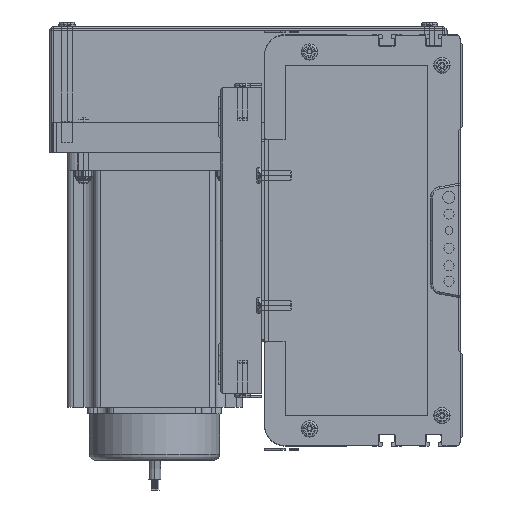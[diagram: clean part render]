
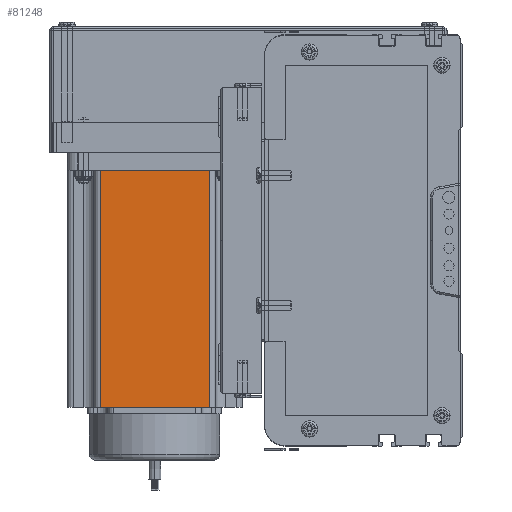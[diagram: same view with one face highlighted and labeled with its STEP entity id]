
A CAD part, left-side view. The second image highlights one B-rep face of the part: STEP entity #81248.
In plain terms, the highlighted planar face has unit normal (-1, 0, 0) as drawn and (0, -1, 0) by its records, which use the part's own axes.
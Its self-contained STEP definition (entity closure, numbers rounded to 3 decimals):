
#45964 = AXIS2_PLACEMENT_3D ( 'NONE', #45999, #46076, #46075 ) ;
#45972 = PLANE ( 'NONE',  #45964 ) ;
#45999 = CARTESIAN_POINT ( 'NONE',  ( 0., 0., 116.5 ) ) ;
#46058 = FACE_OUTER_BOUND ( 'NONE', #81250, .T. ) ;
#46075 = DIRECTION ( 'NONE',  ( 0., 0., 1. ) ) ;
#46076 = DIRECTION ( 'NONE',  ( 0., 1., 0. ) ) ;
#46745 = CARTESIAN_POINT ( 'NONE',  ( 69.74, 0., 0. ) ) ;
#47569 = CARTESIAN_POINT ( 'NONE',  ( 16.16, 0., 0. ) ) ;
#49995 = CARTESIAN_POINT ( 'NONE',  ( 16.16, 0., 116.5 ) ) ;
#49998 = DIRECTION ( 'NONE',  ( 1., 0., 0. ) ) ;
#49999 = VECTOR ( 'NONE', #49998, 1000. ) ;
#50000 = LINE ( 'NONE', #50040, #50039 ) ;
#50005 = DIRECTION ( 'NONE',  ( 0., 0., -1. ) ) ;
#50006 = CARTESIAN_POINT ( 'NONE',  ( 16.16, 0., 116.5 ) ) ;
#50038 = DIRECTION ( 'NONE',  ( 1., 0., 0. ) ) ;
#50039 = VECTOR ( 'NONE', #50038, 1000. ) ;
#50040 = CARTESIAN_POINT ( 'NONE',  ( 0., 0., 0. ) ) ;
#50042 = DIRECTION ( 'NONE',  ( 0., 0., 1. ) ) ;
#50043 = VECTOR ( 'NONE', #50042, 1000. ) ;
#50044 = CARTESIAN_POINT ( 'NONE',  ( 69.74, 0., 116.5 ) ) ;
#50045 = LINE ( 'NONE', #50044, #50043 ) ;
#50052 = VECTOR ( 'NONE', #50005, 1000. ) ;
#50061 = LINE ( 'NONE', #50006, #50052 ) ;
#50172 = CARTESIAN_POINT ( 'NONE',  ( 0., 0., 116.5 ) ) ;
#50173 = LINE ( 'NONE', #50172, #49999 ) ;
#50193 = CARTESIAN_POINT ( 'NONE',  ( 69.74, 0., 116.5 ) ) ;
#81248 = ADVANCED_FACE ( 'NONE', ( #46058 ), #45972, .F. ) ;
#81250 = EDGE_LOOP ( 'NONE', ( #82672, #81304, #82663, #82579 ) ) ;
#81304 = ORIENTED_EDGE ( 'NONE', *, *, #82673, .T. ) ;
#81406 = VERTEX_POINT ( 'NONE', #46745 ) ;
#81511 = VERTEX_POINT ( 'NONE', #47569 ) ;
#82579 = ORIENTED_EDGE ( 'NONE', *, *, #82668, .T. ) ;
#82631 = VERTEX_POINT ( 'NONE', #50193 ) ;
#82663 = ORIENTED_EDGE ( 'NONE', *, *, #82666, .F. ) ;
#82666 = EDGE_CURVE ( 'NONE', #82670, #82631, #50173, .T. ) ;
#82668 = EDGE_CURVE ( 'NONE', #82670, #81511, #50061, .T. ) ;
#82670 = VERTEX_POINT ( 'NONE', #49995 ) ;
#82672 = ORIENTED_EDGE ( 'NONE', *, *, #82674, .T. ) ;
#82673 = EDGE_CURVE ( 'NONE', #81406, #82631, #50045, .T. ) ;
#82674 = EDGE_CURVE ( 'NONE', #81511, #81406, #50000, .T. ) ;
